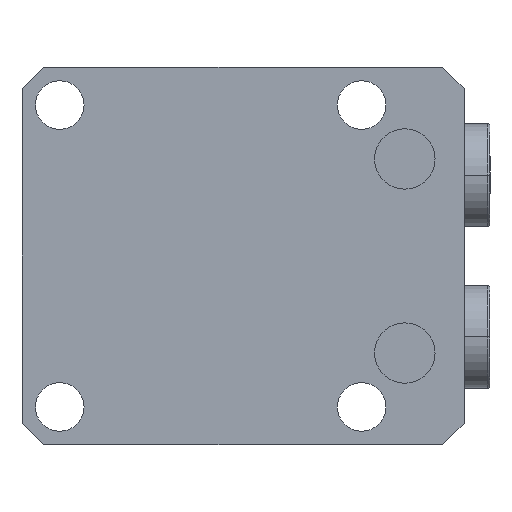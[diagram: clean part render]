
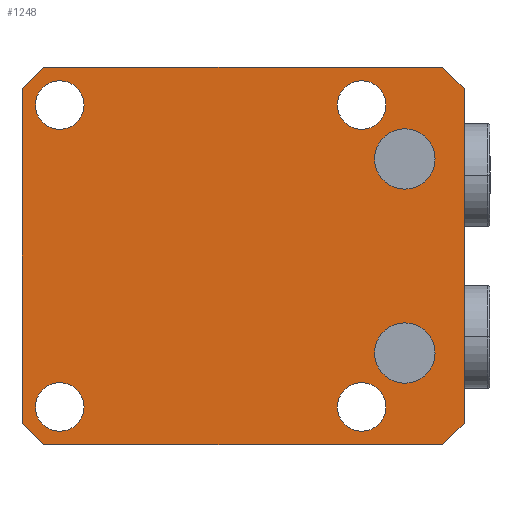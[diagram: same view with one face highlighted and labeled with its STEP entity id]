
A CAD part, front view. The second image highlights one B-rep face of the part: STEP entity #1248.
In plain terms, the highlighted planar face has unit normal (0, -1, 0).
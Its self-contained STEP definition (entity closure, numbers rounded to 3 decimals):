
#267=PLANE('',#4715);
#327=FACE_BOUND('',#1752,.T.);
#328=FACE_BOUND('',#1753,.T.);
#329=FACE_BOUND('',#1754,.T.);
#330=FACE_BOUND('',#1755,.T.);
#331=FACE_BOUND('',#1756,.T.);
#332=FACE_BOUND('',#1757,.T.);
#333=FACE_BOUND('',#1758,.T.);
#696=LINE('',#7335,#992);
#714=LINE('',#7565,#1010);
#715=LINE('',#7567,#1011);
#716=LINE('',#7569,#1012);
#717=LINE('',#7571,#1013);
#718=LINE('',#7573,#1014);
#719=LINE('',#7575,#1015);
#720=LINE('',#7577,#1016);
#992=VECTOR('',#5844,1.);
#1010=VECTOR('',#5908,1.);
#1011=VECTOR('',#5909,1.);
#1012=VECTOR('',#5910,1.);
#1013=VECTOR('',#5911,1.);
#1014=VECTOR('',#5912,1.);
#1015=VECTOR('',#5913,1.);
#1016=VECTOR('',#5914,1.);
#1248=ADVANCED_FACE('',(#327,#328,#329,#330,#331,#332,#333),#267,.T.);
#1752=EDGE_LOOP('',(#2783,#2784));
#1753=EDGE_LOOP('',(#2785,#2786));
#1754=EDGE_LOOP('',(#2787,#2788));
#1755=EDGE_LOOP('',(#2789,#2790));
#1756=EDGE_LOOP('',(#2791,#2792));
#1757=EDGE_LOOP('',(#2793,#2794));
#1758=EDGE_LOOP('',(#2795,#2796,#2797,#2798,#2799,#2800,#2801,#2802));
#2783=ORIENTED_EDGE('',*,*,#3956,.F.);
#2784=ORIENTED_EDGE('',*,*,#3822,.F.);
#2785=ORIENTED_EDGE('',*,*,#3957,.F.);
#2786=ORIENTED_EDGE('',*,*,#3826,.F.);
#2787=ORIENTED_EDGE('',*,*,#3949,.T.);
#2788=ORIENTED_EDGE('',*,*,#3883,.T.);
#2789=ORIENTED_EDGE('',*,*,#3945,.T.);
#2790=ORIENTED_EDGE('',*,*,#3891,.T.);
#2791=ORIENTED_EDGE('',*,*,#3943,.T.);
#2792=ORIENTED_EDGE('',*,*,#3895,.T.);
#2793=ORIENTED_EDGE('',*,*,#3947,.T.);
#2794=ORIENTED_EDGE('',*,*,#3887,.T.);
#2795=ORIENTED_EDGE('',*,*,#3913,.F.);
#2796=ORIENTED_EDGE('',*,*,#3958,.T.);
#2797=ORIENTED_EDGE('',*,*,#3959,.F.);
#2798=ORIENTED_EDGE('',*,*,#3960,.T.);
#2799=ORIENTED_EDGE('',*,*,#3961,.F.);
#2800=ORIENTED_EDGE('',*,*,#3962,.T.);
#2801=ORIENTED_EDGE('',*,*,#3963,.F.);
#2802=ORIENTED_EDGE('',*,*,#3964,.T.);
#3288=VERTEX_POINT('',#7018);
#3289=VERTEX_POINT('',#7020);
#3292=VERTEX_POINT('',#7027);
#3293=VERTEX_POINT('',#7029);
#3343=VERTEX_POINT('',#7254);
#3344=VERTEX_POINT('',#7255);
#3347=VERTEX_POINT('',#7263);
#3348=VERTEX_POINT('',#7264);
#3351=VERTEX_POINT('',#7272);
#3352=VERTEX_POINT('',#7273);
#3355=VERTEX_POINT('',#7281);
#3356=VERTEX_POINT('',#7282);
#3373=VERTEX_POINT('',#7334);
#3374=VERTEX_POINT('',#7336);
#3395=VERTEX_POINT('',#7566);
#3396=VERTEX_POINT('',#7568);
#3397=VERTEX_POINT('',#7570);
#3398=VERTEX_POINT('',#7572);
#3399=VERTEX_POINT('',#7574);
#3400=VERTEX_POINT('',#7576);
#3822=EDGE_CURVE('',#3288,#3289,#4220,.T.);
#3826=EDGE_CURVE('',#3292,#3293,#4222,.T.);
#3883=EDGE_CURVE('',#3343,#3344,#4237,.T.);
#3887=EDGE_CURVE('',#3347,#3348,#4239,.T.);
#3891=EDGE_CURVE('',#3351,#3352,#4241,.T.);
#3895=EDGE_CURVE('',#3355,#3356,#4243,.T.);
#3913=EDGE_CURVE('',#3373,#3374,#696,.T.);
#3943=EDGE_CURVE('',#3356,#3355,#4251,.T.);
#3945=EDGE_CURVE('',#3352,#3351,#4253,.T.);
#3947=EDGE_CURVE('',#3348,#3347,#4255,.T.);
#3949=EDGE_CURVE('',#3344,#3343,#4257,.T.);
#3956=EDGE_CURVE('',#3289,#3288,#4259,.T.);
#3957=EDGE_CURVE('',#3293,#3292,#4260,.T.);
#3958=EDGE_CURVE('',#3373,#3395,#714,.T.);
#3959=EDGE_CURVE('',#3396,#3395,#715,.T.);
#3960=EDGE_CURVE('',#3396,#3397,#716,.T.);
#3961=EDGE_CURVE('',#3398,#3397,#717,.T.);
#3962=EDGE_CURVE('',#3398,#3399,#718,.T.);
#3963=EDGE_CURVE('',#3400,#3399,#719,.T.);
#3964=EDGE_CURVE('',#3400,#3374,#720,.T.);
#4220=CIRCLE('',#4645,5.6);
#4222=CIRCLE('',#4648,5.6);
#4237=CIRCLE('',#4675,4.5);
#4239=CIRCLE('',#4678,4.5);
#4241=CIRCLE('',#4681,4.5);
#4243=CIRCLE('',#4684,4.5);
#4251=CIRCLE('',#4700,4.5);
#4253=CIRCLE('',#4703,4.5);
#4255=CIRCLE('',#4706,4.5);
#4257=CIRCLE('',#4709,4.5);
#4259=CIRCLE('',#4713,5.6);
#4260=CIRCLE('',#4714,5.6);
#4645=AXIS2_PLACEMENT_3D('',#7019,#5709,#5710);
#4648=AXIS2_PLACEMENT_3D('',#7028,#5717,#5718);
#4675=AXIS2_PLACEMENT_3D('',#7253,#5792,#5793);
#4678=AXIS2_PLACEMENT_3D('',#7262,#5800,#5801);
#4681=AXIS2_PLACEMENT_3D('',#7271,#5808,#5809);
#4684=AXIS2_PLACEMENT_3D('',#7280,#5816,#5817);
#4700=AXIS2_PLACEMENT_3D('',#7519,#5878,#5879);
#4703=AXIS2_PLACEMENT_3D('',#7522,#5884,#5885);
#4706=AXIS2_PLACEMENT_3D('',#7525,#5890,#5891);
#4709=AXIS2_PLACEMENT_3D('',#7528,#5896,#5897);
#4713=AXIS2_PLACEMENT_3D('',#7563,#5904,#5905);
#4714=AXIS2_PLACEMENT_3D('',#7564,#5906,#5907);
#4715=AXIS2_PLACEMENT_3D('',#7578,#5915,#5916);
#5709=DIRECTION('',(0.,-1.,0.));
#5710=DIRECTION('',(0.,0.,-1.));
#5717=DIRECTION('',(0.,-1.,0.));
#5718=DIRECTION('',(0.,0.,-1.));
#5792=DIRECTION('',(0.,1.,0.));
#5793=DIRECTION('',(0.,0.,-1.));
#5800=DIRECTION('',(0.,1.,0.));
#5801=DIRECTION('',(0.,0.,-1.));
#5808=DIRECTION('',(0.,1.,0.));
#5809=DIRECTION('',(0.,0.,-1.));
#5816=DIRECTION('',(0.,1.,0.));
#5817=DIRECTION('',(0.,0.,-1.));
#5844=DIRECTION('',(0.,0.,-1.));
#5878=DIRECTION('',(0.,1.,0.));
#5879=DIRECTION('',(0.,0.,-1.));
#5884=DIRECTION('',(0.,1.,0.));
#5885=DIRECTION('',(0.,0.,-1.));
#5890=DIRECTION('',(0.,1.,0.));
#5891=DIRECTION('',(0.,0.,-1.));
#5896=DIRECTION('',(0.,1.,0.));
#5897=DIRECTION('',(0.,0.,-1.));
#5904=DIRECTION('',(0.,-1.,0.));
#5905=DIRECTION('',(0.,0.,-1.));
#5906=DIRECTION('',(0.,-1.,0.));
#5907=DIRECTION('',(0.,0.,-1.));
#5908=DIRECTION('',(-0.707,0.,0.707));
#5909=DIRECTION('',(1.,0.,0.));
#5910=DIRECTION('',(-0.707,0.,-0.707));
#5911=DIRECTION('',(0.,0.,1.));
#5912=DIRECTION('',(0.707,0.,-0.707));
#5913=DIRECTION('',(-1.,0.,0.));
#5914=DIRECTION('',(0.707,0.,0.707));
#5915=DIRECTION('',(0.,-1.,0.));
#5916=DIRECTION('',(0.,0.,-1.));
#7018=CARTESIAN_POINT('',(-36.,-83.,-12.4));
#7019=CARTESIAN_POINT('',(-36.,-83.,-18.));
#7020=CARTESIAN_POINT('',(-36.,-83.,-23.6));
#7027=CARTESIAN_POINT('',(-36.,-83.,23.6));
#7028=CARTESIAN_POINT('',(-36.,-83.,18.));
#7029=CARTESIAN_POINT('',(-36.,-83.,12.4));
#7253=CARTESIAN_POINT('',(-28.,-83.,-28.));
#7254=CARTESIAN_POINT('',(-28.,-83.,-32.5));
#7255=CARTESIAN_POINT('',(-28.,-83.,-23.5));
#7262=CARTESIAN_POINT('',(28.,-83.,28.));
#7263=CARTESIAN_POINT('',(28.,-83.,23.5));
#7264=CARTESIAN_POINT('',(28.,-83.,32.5));
#7271=CARTESIAN_POINT('',(-28.,-83.,28.));
#7272=CARTESIAN_POINT('',(-28.,-83.,23.5));
#7273=CARTESIAN_POINT('',(-28.,-83.,32.5));
#7280=CARTESIAN_POINT('',(28.,-83.,-28.));
#7281=CARTESIAN_POINT('',(28.,-83.,-32.5));
#7282=CARTESIAN_POINT('',(28.,-83.,-23.5));
#7334=CARTESIAN_POINT('',(35.,-83.,31.));
#7335=CARTESIAN_POINT('',(35.,-83.,-35.));
#7336=CARTESIAN_POINT('',(35.,-83.,-31.));
#7519=CARTESIAN_POINT('',(28.,-83.,-28.));
#7522=CARTESIAN_POINT('',(-28.,-83.,28.));
#7525=CARTESIAN_POINT('',(28.,-83.,28.));
#7528=CARTESIAN_POINT('',(-28.,-83.,-28.));
#7563=CARTESIAN_POINT('',(-36.,-83.,-18.));
#7564=CARTESIAN_POINT('',(-36.,-83.,18.));
#7565=CARTESIAN_POINT('',(33.,-83.,33.));
#7566=CARTESIAN_POINT('',(31.,-83.,35.));
#7567=CARTESIAN_POINT('',(35.,-83.,35.));
#7568=CARTESIAN_POINT('',(-43.,-83.,35.));
#7569=CARTESIAN_POINT('',(-4.,-83.,74.));
#7570=CARTESIAN_POINT('',(-47.,-83.,31.));
#7571=CARTESIAN_POINT('',(-47.,-83.,35.));
#7572=CARTESIAN_POINT('',(-47.,-83.,-31.));
#7573=CARTESIAN_POINT('',(-39.,-83.,-39.));
#7574=CARTESIAN_POINT('',(-43.,-83.,-35.));
#7575=CARTESIAN_POINT('',(35.,-83.,-35.));
#7576=CARTESIAN_POINT('',(31.,-83.,-35.));
#7577=CARTESIAN_POINT('',(68.,-83.,2.));
#7578=CARTESIAN_POINT('',(35.,-83.,35.));
